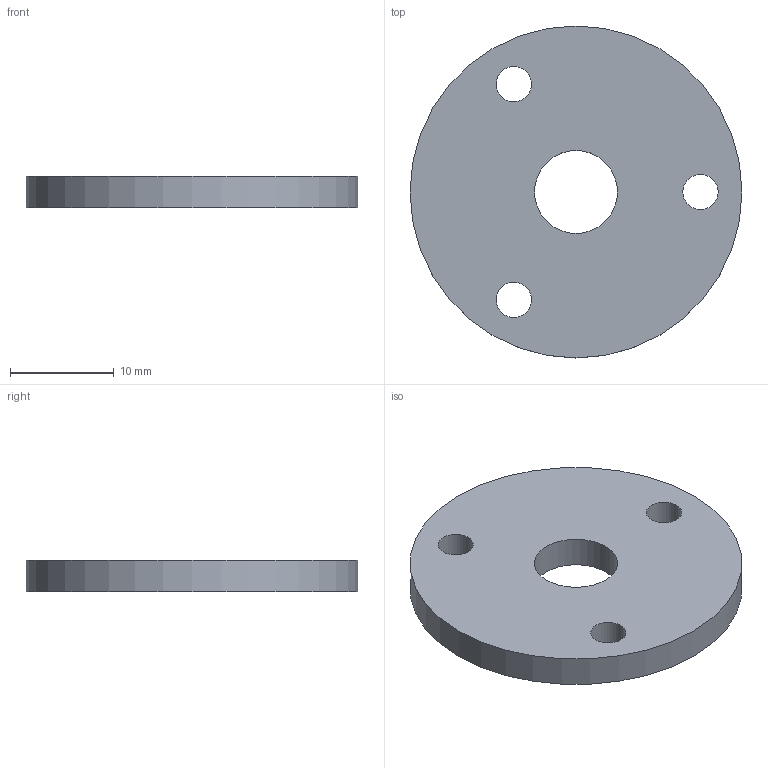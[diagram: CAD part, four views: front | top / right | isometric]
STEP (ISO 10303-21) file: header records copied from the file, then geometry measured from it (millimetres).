
FILE_DESCRIPTION(('Open CASCADE Model'),'2;1');
FILE_NAME('Open CASCADE Shape Model','2026-09-10T23:36:49',('Author'),( 'Open CASCADE'),'Open CASCADE STEP processor 7.9','Open CASCADE 7.9' ,'Unknown');
FILE_SCHEMA(('AUTOMOTIVE_DESIGN { 1 0 10303 214 1 1 1 1 }'));
Length unit declared in the file: millimetre
Products named in the file (1): Open CASCADE STEP translator 7.9 7
Bounding box: 32 x 32 x 3 mm (x, y, z)
Volume: 2180.2 mm3; surface area: 1926.6 mm2
Topology: 1 solids, 1 shells, 7 faces, 15 edges, 10 vertices
Faces by surface type: cylinder 5, plane 2
Full cylindrical faces by diameter (mm): 3.4 x3, 8 x1, 32 x1
Entity records: 441 total; most frequent: CARTESIAN_POINT 105, DIRECTION 64, ORIENTED_EDGE 30, PCURVE 30, DEFINITIONAL_REPRESENTATION 30, LINE 25, VECTOR 25, AXIS2_PLACEMENT_3D 18
